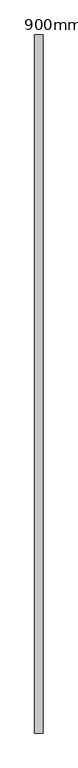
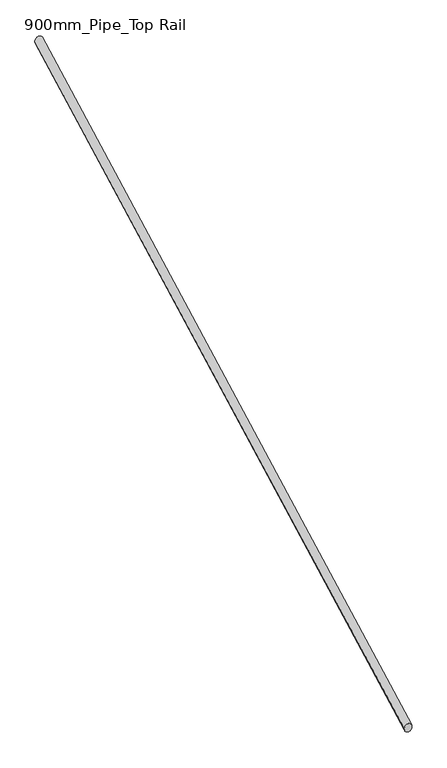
"""IFC4 building model written with IfcOpenShell, lengths in millimetres: railing geometry, 900mm_Pipe_Top Rail."""

import ifcopenshell
import ifcopenshell.guid

model = None  # the IFC model being written
_history = None  # IfcOwnerHistory: only IFC2X3 demands one
_inside = {}  # id of a spatial element -> (the spatial element, [elements in it])
_under = {}  # id of a project, library or spatial element -> (it, [spatial elements below it])
_declared = {}  # id of a project -> (the project, [libraries it declares])
_typed = {}  # id of a type object -> (the type object, [elements of that type])
_made_of = {}  # id of a material, layer set ... -> (it, [elements and type objects made of it])


def new_model(schema):
    """Start an empty IFC model of exactly this schema.

    Asked for "IFC4X3", IfcOpenShell would pick the latest addendum, in which some entities
    have other attributes; the version numbers below select the first issue.
    IFC2X3 requires an IfcOwnerHistory on every rooted entity: one is made here for all.
    """
    global model, _history
    if schema == "IFC4X3":
        model = ifcopenshell.file(schema_version=(4, 3, 0, 0))
    else:
        model = ifcopenshell.file(schema=schema)
    _inside.clear()
    _under.clear()
    _declared.clear()
    _typed.clear()
    _made_of.clear()
    _history = None
    if model.schema == "IFC2X3":
        org = make("IfcOrganization", Name="unknown")
        user = make(
            "IfcPersonAndOrganization",
            ThePerson=make("IfcPerson", FamilyName="unknown"),
            TheOrganization=org,
        )
        app = make(
            "IfcApplication",
            ApplicationDeveloper=org,
            Version="unknown",
            ApplicationFullName="unknown",
            ApplicationIdentifier="unknown",
        )
        _history = make(
            "IfcOwnerHistory",
            OwningUser=user,
            OwningApplication=app,
            ChangeAction="ADDED",
            CreationDate=0,
        )
    return model


def make(cls, **values):
    """One entity of the class cls with the attributes given. An attribute that is None is left unset."""
    return model.create_entity(
        cls, **{name: value for name, value in values.items() if value is not None}
    )


def rooted(cls, **values):
    """An entity with a GlobalId (a new one), such as an element, a storey or a relation."""
    return make(cls, GlobalId=ifcopenshell.guid.new(), OwnerHistory=_history, **values)


def si_unit(unit_type, name, prefix=None):
    """IfcSIUnit, for example si_unit("LENGTHUNIT", "METRE", prefix="MILLI")."""
    return make("IfcSIUnit", UnitType=unit_type, Prefix=prefix, Name=name)


def assignment(units):
    """IfcUnitAssignment: the units of a project."""
    return None if units is None else make("IfcUnitAssignment", Units=units)


def point(xyz):
    """IfcCartesianPoint."""
    return None if xyz is None else make("IfcCartesianPoint", Coordinates=xyz)


def direction(xyz):
    """IfcDirection."""
    return None if xyz is None else make("IfcDirection", DirectionRatios=xyz)


def frame(location, z_axis=None, x_axis=None):
    """IfcAxis2Placement3D, a coordinate frame: its origin and axes. An axis left out is left unset."""
    return make(
        "IfcAxis2Placement3D",
        Location=point(location),
        Axis=direction(z_axis),
        RefDirection=direction(x_axis),
    )


def origin():
    """The frame at (0, 0, 0) with its axes left unset."""
    return frame((0.0, 0.0, 0.0))


def place(relative_to, where):
    """IfcLocalPlacement: puts the frame where relative to a parent placement (None: the world)."""
    return make(
        "IfcLocalPlacement", PlacementRelTo=relative_to, RelativePlacement=where
    )


def context(
    kind, dimensions, precision=None, world=None, true_north=None, identifier=None
):
    """IfcGeometricRepresentationContext, for example the 3D "Model" context."""
    return make(
        "IfcGeometricRepresentationContext",
        ContextIdentifier=identifier,
        ContextType=kind,
        CoordinateSpaceDimension=dimensions,
        Precision=precision,
        WorldCoordinateSystem=world,
        TrueNorth=true_north,
    )


def project(units=None, contexts=None):
    """IfcProject with its units and contexts."""
    return rooted(
        "IfcProject",
        Name="project",
        RepresentationContexts=contexts,
        UnitsInContext=assignment(units),
    )


def spatial(cls, under=None, at=None, **own):
    """A site, building, storey or space (cls), placed at a placement, below another one or the project."""
    s = rooted(cls, ObjectPlacement=at, **own)
    if under is not None:
        _under.setdefault(under.id(), (under, []))[1].append(s)
    return s


def ellipse_curve(where, semi_axis1, semi_axis2):
    """IfcEllipse in the frame where."""
    return make(
        "IfcEllipse", Position=where, SemiAxis1=semi_axis1, SemiAxis2=semi_axis2
    )


def shape(context_of_items, identifier, shape_type, items):
    """IfcShapeRepresentation: the items that make up one representation, for example the "Body"."""
    return make(
        "IfcShapeRepresentation",
        ContextOfItems=context_of_items,
        RepresentationIdentifier=identifier,
        RepresentationType=shape_type,
        Items=items,
    )


def source(mapping_origin, context_of_items, identifier, shape_type, items):
    """IfcRepresentationMap: a shape defined once, which mapped items show again and again."""
    return make(
        "IfcRepresentationMap",
        MappingOrigin=mapping_origin,
        MappedRepresentation=shape(context_of_items, identifier, shape_type, items),
    )


def transform(
    local_origin,
    x_axis=None,
    y_axis=None,
    z_axis=None,
    scale=None,
    scale2=None,
    scale3=None,
    uniform=True,
):
    """IfcCartesianTransformationOperator3D, or its non-uniform kind. x_axis, y_axis, z_axis: its Axis1, 2, 3."""
    if uniform:
        return make(
            "IfcCartesianTransformationOperator3D",
            Axis1=direction(x_axis),
            Axis2=direction(y_axis),
            LocalOrigin=point(local_origin),
            Scale=scale,
            Axis3=direction(z_axis),
        )
    return make(
        "IfcCartesianTransformationOperator3DnonUniform",
        Axis1=direction(x_axis),
        Axis2=direction(y_axis),
        LocalOrigin=point(local_origin),
        Scale=scale,
        Axis3=direction(z_axis),
        Scale2=scale2,
        Scale3=scale3,
    )


def mapped(mapping_source, mapping_target):
    """IfcMappedItem: shows the shape of a source again, moved by a transform."""
    return make(
        "IfcMappedItem", MappingSource=mapping_source, MappingTarget=mapping_target
    )


def made_of(thing, what):
    """Note that an element or type object is made of a material, layer set ...; save() writes the relation."""
    if what is not None:
        _made_of.setdefault(what.id(), (what, []))[1].append(thing)
    return thing


def element(
    cls,
    number,
    at=None,
    inside=None,
    cuts=None,
    type_object=None,
    material=None,
    context=None,
    identifier="Body",
    shape_type=None,
    held_by="IfcProductDefinitionShape",
    body=None,
    shapes=None,
    **own,
):
    """One element of the class cls, such as IfcWall. Its Tag is "e" and its number.

    at: its placement. inside: the storey or other place that contains it. cuts: it is an
    opening in that element (IfcRelVoidsElement). A single representation is given by context,
    identifier, shape_type and body (its items); several are given by shapes. held_by: the class
    of the entity that holds the representations. save() writes the other relations.
    """
    e = rooted(cls, Tag="e%d" % number, ObjectPlacement=at, **own)
    if body is not None:
        shapes = [shape(context, identifier, shape_type, body)]
    if shapes is not None:
        e.Representation = make(held_by, Representations=shapes)
    if inside is not None:
        _inside.setdefault(inside.id(), (inside, []))[1].append(e)
    if cuts is not None:
        rooted(
            "IfcRelVoidsElement", RelatingBuildingElement=cuts, RelatedOpeningElement=e
        )
    if type_object is not None:
        _typed.setdefault(type_object.id(), (type_object, []))[1].append(e)
    return made_of(e, material)


def aggregate(whole, parts):
    """IfcRelAggregates: a whole, such as a stair, and the parts it consists of."""
    return rooted("IfcRelAggregates", RelatingObject=whole, RelatedObjects=parts)


def save(model, path):
    """Write the relations noted so far, then the file.

    IfcRelAggregates (storeys below a building ...), IfcRelContainedInSpatialStructure (elements
    in a storey), IfcRelDefinesByType, IfcRelAssociatesMaterial and IfcRelDeclares: one each for
    every whole, place, type object, material and project.
    """
    for whole, parts in _under.values():
        aggregate(whole, parts)
    for where, things in _inside.values():
        rooted(
            "IfcRelContainedInSpatialStructure",
            RelatedElements=things,
            RelatingStructure=where,
        )
    for kind, things in _typed.values():
        rooted("IfcRelDefinesByType", RelatedObjects=things, RelatingType=kind)
    for what, things in _made_of.values():
        rooted("IfcRelAssociatesMaterial", RelatedObjects=things, RelatingMaterial=what)
    for by, libraries in _declared.values():
        rooted("IfcRelDeclares", RelatingContext=by, RelatedDefinitions=libraries)
    model.write(path)


def plane_surface(at):
    """IfcPlane: the flat surface through the origin of the frame at, square to its z axis."""
    return make("IfcPlane", Position=at)


def cylinder_surface(at, radius):
    """IfcCylindricalSurface: all points at the distance radius from the z axis of the frame at."""
    return make("IfcCylindricalSurface", Position=at, Radius=radius)


def advanced_brep(points, edges, surfaces, faces):
    """IfcAdvancedBrep: a solid bounded by faces that lie on surfaces and meet in shared edges.

    An edge is (start, end): straight between two places in points (the first is 0);
    or (start, end, curve); or (start, end, curve, False) where it runs against its curve.
    A face is (place in surfaces, loops), or (place, loops, False) where it looks against
    its surface's normal. A loop lists edges by number (the first is 1), with a minus sign
    where the edge is run from its end to its start. The first loop is the outer one.
    """
    corners = [point(p) for p in points]
    vertices = [make("IfcVertexPoint", VertexGeometry=c) for c in corners]
    made = []
    for start, end, *more in edges:
        made.append(
            make(
                "IfcEdgeCurve",
                EdgeStart=vertices[start],
                EdgeEnd=vertices[end],
                EdgeGeometry=more[0] if more else make("IfcPolyline", Points=[corners[start], corners[end]]),
                SameSense=more[1] if len(more) > 1 else True,
            )
        )
    hull = []
    for where, loops, *sense in faces:
        bounds = []
        for j, loop in enumerate(loops):
            ring = [make("IfcOrientedEdge", EdgeElement=made[abs(k) - 1], Orientation=k > 0) for k in loop]
            bounds.append(
                make(
                    "IfcFaceOuterBound" if j == 0 else "IfcFaceBound",
                    Bound=make("IfcEdgeLoop", EdgeList=ring),
                    Orientation=True,
                )
            )
        hull.append(make("IfcAdvancedFace", Bounds=bounds, FaceSurface=surfaces[where], SameSense=sense[0] if sense else True))
    return make("IfcAdvancedBrep", Outer=make("IfcClosedShell", CfsFaces=hull))


def railing_900mm_pipe_top_rail_945ddb10(model_context):
    return source(origin(), model_context, "Body", "AdvancedBrep", [
        advanced_brep(
        [(-12195.3216429, -3435.1039323, 6639.9405164), (-12235.3216429, -3435.1039323, 6639.9405164), (-12195.3216429, -135.1039323, 8387.3690878), (-12235.3216429, -135.1039323, 8387.3690878)],
        [
            (0, 1, ellipse_curve(frame((-12215.3216429, -3435.1039323, 6639.9405164), z_axis=(0.0, -1.0, 0.0), x_axis=(0.0, 0.0, -1.0)), 22.6309122, 20.0)),
            (1, 0, ellipse_curve(frame((-12215.3216429, -3435.1039323, 6639.9405164), z_axis=(0.0, -1.0, 0.0), x_axis=(0.0, 0.0, -1.0)), 22.6309122, 20.0)),
            (2, 3, ellipse_curve(frame((-12215.3216429, -135.1039323, 8387.3690878), z_axis=(0.0, 1.0, 0.0), x_axis=(0.0, 0.0, -1.0)), 22.6309122, 20.0)),
            (3, 2, ellipse_curve(frame((-12215.3216429, -135.1039323, 8387.3690878), z_axis=(0.0, 1.0, 0.0), x_axis=(0.0, 0.0, -1.0)), 22.6309122, 20.0)),
            (0, 2),
            (3, 1),
        ],
        [
            plane_surface(frame((-12215.3216429, -3435.1039323, 6662.5714286), z_axis=(0.0, -1.0, 0.0), x_axis=(0.0, 0.0, 1.0))),
            plane_surface(frame((-12215.3216429, -135.1039323, 8410.0), z_axis=(0.0, 1.0, 0.0), x_axis=(0.0, 0.0, 1.0))),
            cylinder_surface(frame((-12215.3216429, -3425.7446311, 6644.8964892), z_axis=(0.0, -0.8837469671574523, -0.46796506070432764), x_axis=(-1.0, 0.0, 0.0)), 20.0),
        ],
        [
            (0, [[1, 2]]),
            (1, [[3, 4]]),
            (2, [[-1, 5, -4, 6]]),
            (2, [[-2, -6, -3, -5]]),
        ],
    ),
    ])


if __name__ == "__main__":
    model = new_model("IFC4")
    model_context = context("Model", 3, world=origin())
    ifc_project = project(units=[si_unit("LENGTHUNIT", "METRE", prefix="MILLI")], contexts=[model_context])
    site = spatial("IfcSite", under=ifc_project)
    building = spatial("IfcBuilding", under=site)
    placement = place(None, origin())
    railing_900mm_pipe_top_rail_shape = railing_900mm_pipe_top_rail_945ddb10(model_context)
    element("IfcRailing", 1, ObjectType="900mm_Pipe_Top Rail", at=placement, inside=building, context=model_context, shape_type="MappedRepresentation", body=[
        mapped(railing_900mm_pipe_top_rail_shape, transform((0.0, 0.0, 0.0), x_axis=(1.0, 0.0, 0.0), y_axis=(0.0, 1.0, 0.0), z_axis=(0.0, 0.0, 1.0))),
    ])
    save(model, "model.ifc")
